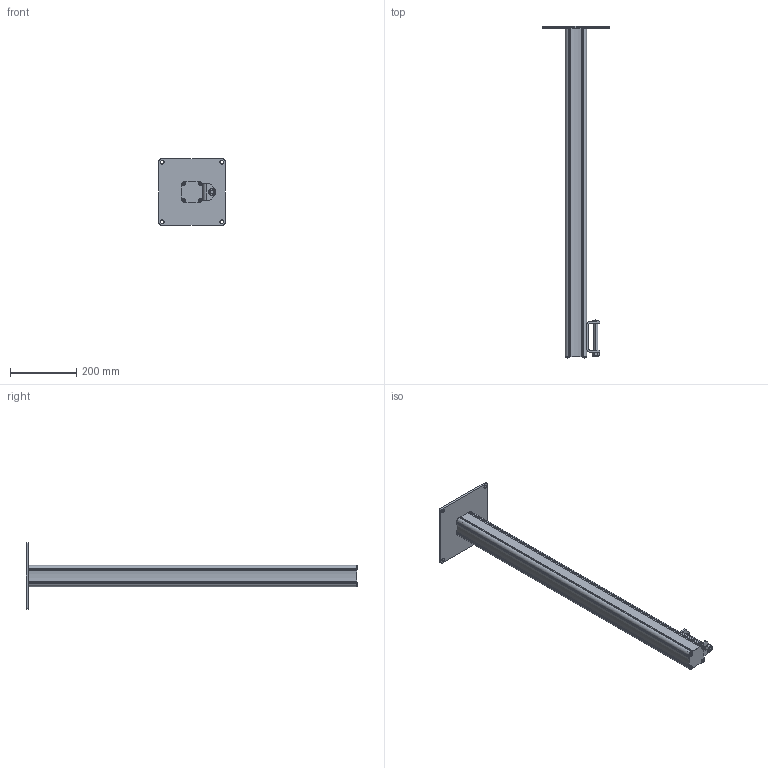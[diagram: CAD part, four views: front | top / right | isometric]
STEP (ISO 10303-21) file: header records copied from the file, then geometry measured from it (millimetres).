
FILE_DESCRIPTION((''),'2;1');
FILE_NAME('139921','2020-01-08T08:02:27',('Tomas Bellgran'),(''),'CREO PARAMETRIC BY PTC INC, 2018260','CREO PARAMETRIC BY PTC INC, 2018260','');
FILE_SCHEMA(('AUTOMOTIVE_DESIGN { 1 0 10303 214 1 1 1 1 }'));
Length unit declared in the file: millimetre
Products named in the file (10): 138774; 139916; 139460; 100-6306; 9908480; 135516; 118449; 102078; 9967826; 139921
Assembly tree (16 placements, depth 2):
  139921
    138774
    139916
    139460
    100-6306
    9908480
    135516
    118449  x4
    102078  x4
    9967826  x2
Bounding box: 200 x 1004 x 200 mm (x, y, z)
Volume: 4047823.4 mm3; surface area: 439187.1 mm2
Topology: 16 solids, 18 shells, 378 faces, 889 edges, 559 vertices
Faces by surface type: cylinder 194, plane 111, cone 58, sphere 10, torus 5
Entity records: 15475 total; most frequent: CARTESIAN_POINT 4766, DIRECTION 1612, ORIENTED_EDGE 1250, AXIS2_PLACEMENT_3D 645, EDGE_CURVE 629, PROPERTY_DEFINITION 510, REPRESENTATION 499, PROPERTY_DEFINITION_REPRESENTATION 499
